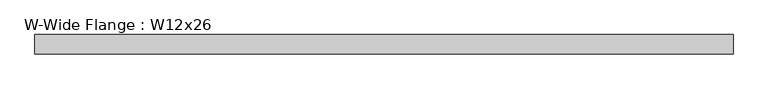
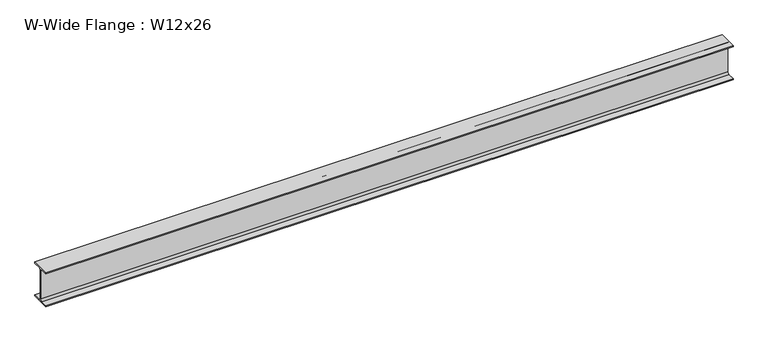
"""IFC4 building model written with IfcOpenShell, lengths in millimetres: beam geometry, W-Wide Flange : W12x26."""

from ifc_helpers import new_model, si_unit, point, frame, frame_2d, origin, place, context, project, spatial, polyline, circle_curve, trimmed, segment, composite_curve, outline, extrude, source, transform, mapped, element, save


def w_wide_flange_w12x26_9fd3e897(model_context):
    return source(origin(), model_context, "Body", "SweptSolid", [
        extrude(outline(composite_curve([segment(polyline([(82.423, -145.288), (82.423, -154.94), (-82.423, -154.94), (-82.423, -145.288), (-20.2565, -145.288)]), True, "CONTINUOUS"), segment(trimmed(circle_curve(frame_2d((-20.2565, -127.9525)), 17.3355), [point((-20.2565, -145.288))], [point((-2.921, -127.9525))], True, "CARTESIAN"), True, "CONTINUOUS"), segment(polyline([(-2.921, -127.9525), (-2.921, 127.9525)]), True, "CONTINUOUS"), segment(trimmed(circle_curve(frame_2d((-20.2565, 127.9525)), 17.3355), [point((-2.921, 127.9525))], [point((-20.2565, 145.288))], True, "CARTESIAN"), True, "CONTINUOUS"), segment(polyline([(-20.2565, 145.288), (-82.423, 145.288), (-82.423, 154.94), (82.423, 154.94), (82.423, 145.288), (20.2565, 145.288)]), True, "CONTINUOUS"), segment(trimmed(circle_curve(frame_2d((20.2565, 127.9525)), 17.3355), [point((20.2565, 145.288))], [point((2.921, 127.9525))], True, "CARTESIAN"), True, "CONTINUOUS"), segment(polyline([(2.921, 127.9525), (2.921, -127.9525)]), True, "CONTINUOUS"), segment(trimmed(circle_curve(frame_2d((20.2565, -127.9525)), 17.3355), [point((2.921, -127.9525))], [point((20.2565, -145.288))], True, "CARTESIAN"), True, "CONTINUOUS"), segment(polyline([(20.2565, -145.288), (82.423, -145.288)]), True, "CONTINUOUS")], self_intersect=False)), frame((-2961.513, 0.0, 0.0), z_axis=(1.0, 0.0, 0.0), x_axis=(0.0, 1.0, 0.0)), (0.0, 0.0, 1.0), 5923.026),
    ])


if __name__ == "__main__":
    model = new_model("IFC4")
    model_context = context("Model", 3, world=origin())
    ifc_project = project(units=[si_unit("LENGTHUNIT", "METRE", prefix="MILLI")], contexts=[model_context])
    site = spatial("IfcSite", under=ifc_project)
    building = spatial("IfcBuilding", under=site)
    placement = place(None, origin())
    w_wide_flange_w12x26_shape = w_wide_flange_w12x26_9fd3e897(model_context)
    element("IfcBeam", 1, ObjectType="W-Wide Flange : W12x26", at=placement, inside=building, context=model_context, shape_type="MappedRepresentation", body=[
        mapped(w_wide_flange_w12x26_shape, transform((0.0, 0.0, 0.0), x_axis=(1.0, 0.0, 0.0), y_axis=(0.0, 1.0, 0.0), z_axis=(0.0, 0.0, 1.0))),
    ])
    save(model, "model.ifc")
